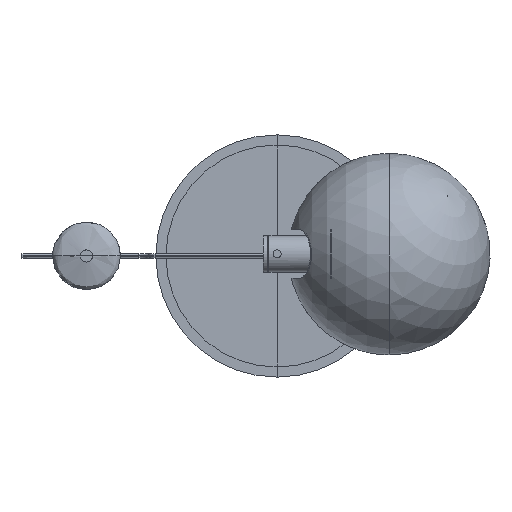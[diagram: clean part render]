
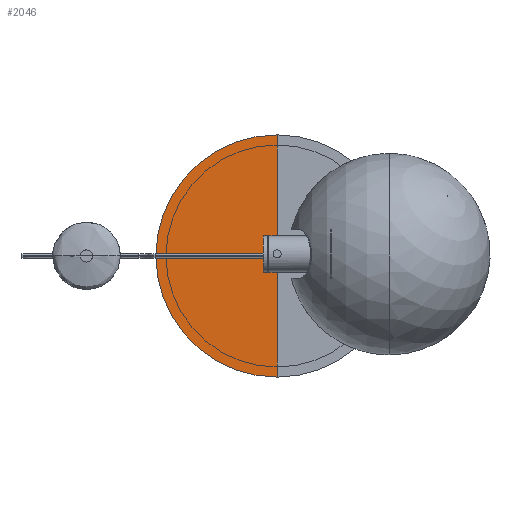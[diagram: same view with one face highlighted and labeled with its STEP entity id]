
A CAD part, top view. The second image highlights one B-rep face of the part: STEP entity #2046.
In plain terms, the highlighted planar face has unit normal (0, 0, 1).
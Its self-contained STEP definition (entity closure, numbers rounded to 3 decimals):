
#174=PLANE('',#2275);
#293=FACE_OUTER_BOUND('',#424,.T.);
#424=EDGE_LOOP('',(#1790,#1791,#1792,#1793));
#555=LINE('',#5076,#688);
#556=LINE('',#5077,#689);
#688=VECTOR('',#2826,304.8);
#689=VECTOR('',#2827,304.8);
#786=CIRCLE('',#2242,17.5);
#801=CIRCLE('',#2273,150.);
#947=VERTEX_POINT('',#4053);
#948=VERTEX_POINT('',#4054);
#967=VERTEX_POINT('',#5068);
#968=VERTEX_POINT('',#5069);
#1211=EDGE_CURVE('',#948,#947,#786,.T.);
#1247=EDGE_CURVE('',#968,#967,#801,.T.);
#1248=EDGE_CURVE('',#967,#948,#555,.T.);
#1249=EDGE_CURVE('',#947,#968,#556,.T.);
#1790=ORIENTED_EDGE('',*,*,#1247,.T.);
#1791=ORIENTED_EDGE('',*,*,#1248,.T.);
#1792=ORIENTED_EDGE('',*,*,#1211,.T.);
#1793=ORIENTED_EDGE('',*,*,#1249,.T.);
#2046=ADVANCED_FACE('',(#293),#174,.F.);
#2242=AXIS2_PLACEMENT_3D('',#4062,#2747,#2748);
#2273=AXIS2_PLACEMENT_3D('',#5074,#2822,#2823);
#2275=AXIS2_PLACEMENT_3D('',#5078,#2828,#2829);
#2747=DIRECTION('center_axis',(0.,0.,-1.));
#2748=DIRECTION('ref_axis',(0.,-1.,0.));
#2822=DIRECTION('center_axis',(0.,0.,1.));
#2823=DIRECTION('ref_axis',(0.,-1.,0.));
#2826=DIRECTION('',(0.,1.,0.));
#2827=DIRECTION('',(0.,1.,0.));
#2828=DIRECTION('center_axis',(0.,0.,-1.));
#2829=DIRECTION('ref_axis',(0.,-1.,0.));
#4053=CARTESIAN_POINT('',(0.,17.5,11.));
#4054=CARTESIAN_POINT('',(0.,-17.5,11.));
#4062=CARTESIAN_POINT('Origin',(0.,0.,
11.));
#5068=CARTESIAN_POINT('',(0.,-150.,11.));
#5069=CARTESIAN_POINT('',(0.,150.,11.));
#5074=CARTESIAN_POINT('Origin',(0.,0.,
11.));
#5076=CARTESIAN_POINT('',(0.,-150.,11.));
#5077=CARTESIAN_POINT('',(0.,17.5,11.));
#5078=CARTESIAN_POINT('Origin',(0.,0.,11.));
